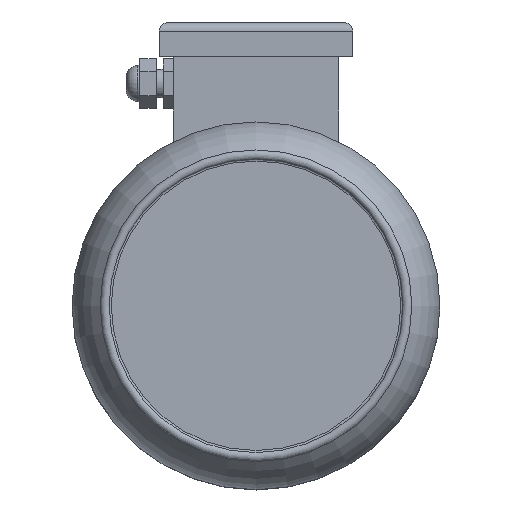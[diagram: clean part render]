
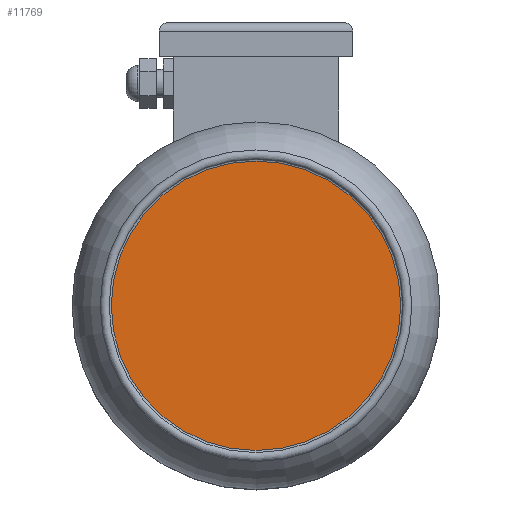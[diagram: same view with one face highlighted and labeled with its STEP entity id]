
A CAD part, top view. The second image highlights one B-rep face of the part: STEP entity #11769.
In plain terms, the highlighted planar face has unit normal (0, 0, 1).
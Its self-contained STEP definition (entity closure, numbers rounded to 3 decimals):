
#713=PLANE('',#13140);
#5157=ORIENTED_EDGE('',*,*,#7267,.F.);
#7267=EDGE_CURVE('',#8566,#8566,#9508,.T.);
#8566=VERTEX_POINT('',#20333);
#9508=CIRCLE('',#13139,85.758);
#10147=EDGE_LOOP('',(#5157));
#10936=FACE_BOUND('',#10147,.T.);
#11769=ADVANCED_FACE('',(#10936),#713,.T.);
#13139=AXIS2_PLACEMENT_3D('',#20332,#16282,#16283);
#13140=AXIS2_PLACEMENT_3D('',#20334,#16284,#16285);
#16282=DIRECTION('',(0.,0.,-1.));
#16283=DIRECTION('',(-1.,0.,0.));
#16284=DIRECTION('',(0.,0.,1.));
#16285=DIRECTION('',(1.,0.,0.));
#20332=CARTESIAN_POINT('',(0.,0.,647.145));
#20333=CARTESIAN_POINT('',(-85.758,0.,647.145));
#20334=CARTESIAN_POINT('',(85.758,0.,647.145));
